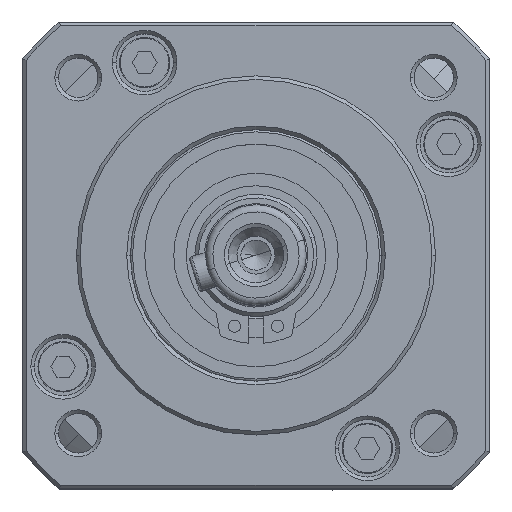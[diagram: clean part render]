
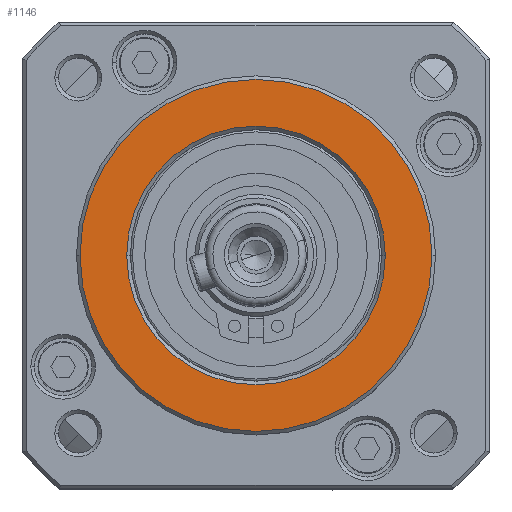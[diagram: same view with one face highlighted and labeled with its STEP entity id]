
A CAD part, top view. The second image highlights one B-rep face of the part: STEP entity #1146.
In plain terms, the highlighted planar face has unit normal (0, 0, 1).
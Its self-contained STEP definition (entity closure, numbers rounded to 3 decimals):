
#551 = EDGE_CURVE ( 'NONE', #26605, #23239, #27186, .T. ) ;
#736 = CIRCLE ( 'NONE', #35952, 18. ) ;
#803 = CARTESIAN_POINT ( 'NONE',  ( -20.147, 10.389, 76.75 ) ) ;
#1146 = ADVANCED_FACE ( 'NONE', ( #26665, #28969 ), #33796, .F. ) ;
#2195 = AXIS2_PLACEMENT_3D ( 'NONE', #11828, #5879, #31935 ) ;
#2533 = EDGE_CURVE ( 'NONE', #23239, #26605, #736, .T. ) ;
#5124 = DIRECTION ( 'NONE',  ( 0., 0., 1. ) ) ;
#5640 = CIRCLE ( 'NONE', #37186, 24.5 ) ;
#5879 = DIRECTION ( 'NONE',  ( 0., 0., 1. ) ) ;
#5908 = DIRECTION ( 'NONE',  ( -1., 0., 0. ) ) ;
#6274 = EDGE_LOOP ( 'NONE', ( #30738, #32419 ) ) ;
#6612 = CARTESIAN_POINT ( 'NONE',  ( -2.147, 10.389, 76.75 ) ) ;
#6964 = CIRCLE ( 'NONE', #2195, 24.5 ) ;
#7080 = VERTEX_POINT ( 'NONE', #28890 ) ;
#10191 = AXIS2_PLACEMENT_3D ( 'NONE', #37295, #13309, #22137 ) ;
#11729 = EDGE_LOOP ( 'NONE', ( #30204, #25411 ) ) ;
#11828 = CARTESIAN_POINT ( 'NONE',  ( -20.147, 10.389, 76.75 ) ) ;
#13309 = DIRECTION ( 'NONE',  ( 0., 0., -1. ) ) ;
#15589 = AXIS2_PLACEMENT_3D ( 'NONE', #803, #15635, #36405 ) ;
#15635 = DIRECTION ( 'NONE',  ( 0., 0., -1. ) ) ;
#16943 = VERTEX_POINT ( 'NONE', #32792 ) ;
#22137 = DIRECTION ( 'NONE',  ( -1., 0., 0. ) ) ;
#22870 = CARTESIAN_POINT ( 'NONE',  ( -20.147, 10.389, 76.75 ) ) ;
#23239 = VERTEX_POINT ( 'NONE', #6612 ) ;
#25411 = ORIENTED_EDGE ( 'NONE', *, *, #34692, .T. ) ;
#25705 = DIRECTION ( 'NONE',  ( -1., 0., 0. ) ) ;
#26491 = DIRECTION ( 'NONE',  ( 0., 0., -1. ) ) ;
#26605 = VERTEX_POINT ( 'NONE', #32003 ) ;
#26665 = FACE_BOUND ( 'NONE', #6274, .T. ) ;
#27186 = CIRCLE ( 'NONE', #15589, 18. ) ;
#28890 = CARTESIAN_POINT ( 'NONE',  ( 4.353, 10.389, 76.75 ) ) ;
#28954 = CARTESIAN_POINT ( 'NONE',  ( -20.147, 10.389, 76.75 ) ) ;
#28969 = FACE_OUTER_BOUND ( 'NONE', #11729, .T. ) ;
#29371 = EDGE_CURVE ( 'NONE', #16943, #7080, #6964, .T. ) ;
#30204 = ORIENTED_EDGE ( 'NONE', *, *, #29371, .T. ) ;
#30738 = ORIENTED_EDGE ( 'NONE', *, *, #2533, .T. ) ;
#31935 = DIRECTION ( 'NONE',  ( -1., 0., 0. ) ) ;
#32003 = CARTESIAN_POINT ( 'NONE',  ( -38.147, 10.389, 76.75 ) ) ;
#32419 = ORIENTED_EDGE ( 'NONE', *, *, #551, .T. ) ;
#32792 = CARTESIAN_POINT ( 'NONE',  ( -44.647, 10.389, 76.75 ) ) ;
#33796 = PLANE ( 'NONE',  #10191 ) ;
#34692 = EDGE_CURVE ( 'NONE', #7080, #16943, #5640, .T. ) ;
#35952 = AXIS2_PLACEMENT_3D ( 'NONE', #28954, #26491, #5908 ) ;
#36405 = DIRECTION ( 'NONE',  ( -1., 0., 0. ) ) ;
#37186 = AXIS2_PLACEMENT_3D ( 'NONE', #22870, #5124, #25705 ) ;
#37295 = CARTESIAN_POINT ( 'NONE',  ( -20.147, 10.389, 76.75 ) ) ;
